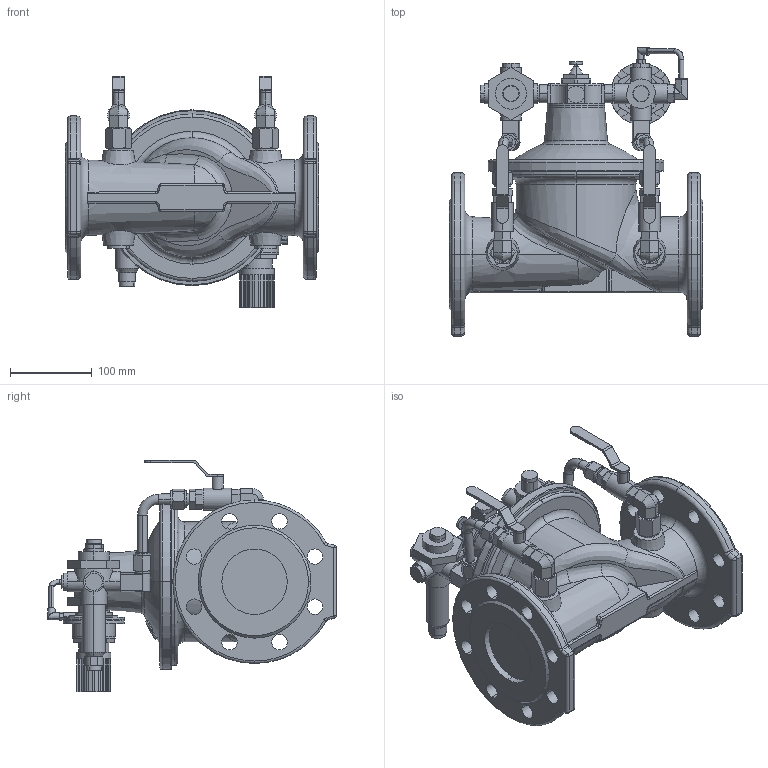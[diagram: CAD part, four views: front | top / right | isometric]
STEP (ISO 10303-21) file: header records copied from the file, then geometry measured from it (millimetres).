
FILE_DESCRIPTION (( 'STEP AP203' ), '1' );
FILE_NAME ('O_859_00_DN080_1XXXX00_REV01.step', '2020-11-17T11:54:19', ( '' ), ( '' ), 'SwSTEP 2.0', 'SolidWorks 2019', '' );
FILE_SCHEMA (( 'CONFIG_CONTROL_DESIGN' ));
Length unit declared in the file: millimetre
Products named in the file (1): O_859_00_DN080_1XXXX00_REV01
Bounding box: 310 x 353.03 x 282.79 mm (x, y, z)
Volume: 5826669.3 mm3; surface area: 459536.1 mm2
Topology: 1 solids, 1 shells, 988 faces, 2453 edges, 1535 vertices
Faces by surface type: plane 524, cylinder 307, cone 69, torus 66, bspline 18, sphere 4
Entity records: 33668 total; most frequent: CARTESIAN_POINT 10230, ORIENTED_EDGE 4890, DIRECTION 4866, EDGE_CURVE 2445, AXIS2_PLACEMENT_3D 1798, VERTEX_POINT 1535, VECTOR 1270, LINE 1270
